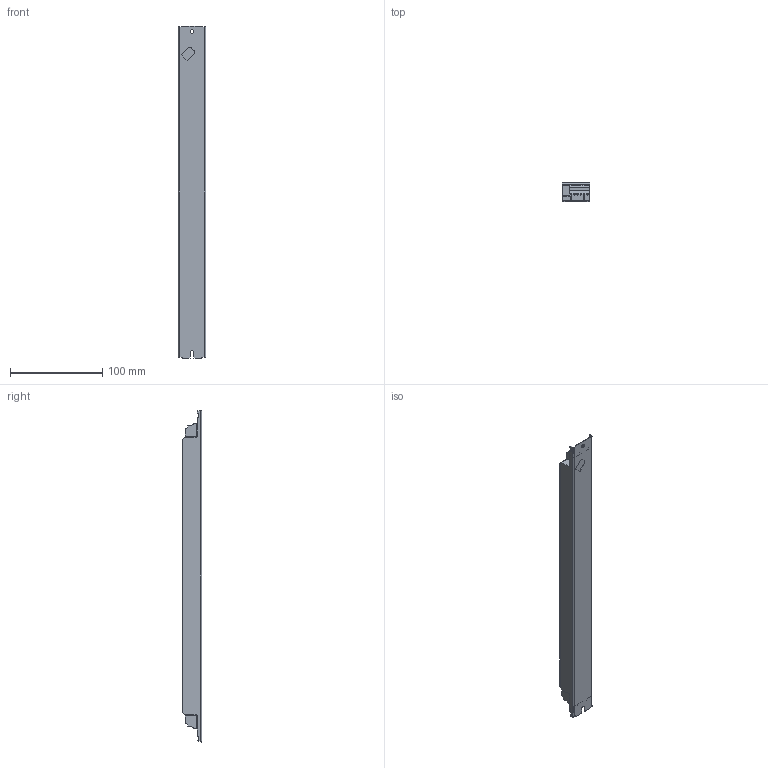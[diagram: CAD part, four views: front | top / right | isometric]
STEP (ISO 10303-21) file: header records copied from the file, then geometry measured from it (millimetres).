
FILE_DESCRIPTION((''),'2;1');
FILE_NAME('15011451Z_360X30_EM-POWERLED','2017-06-27T',('Emanuel.Wild'),(''),'PRO/ENGINEER BY PARAMETRIC TECHNOLOGY CORPORATION, 2015200','PRO/ENGINEER BY PARAMETRIC TECHNOLOGY CORPORATION, 2015200','');
FILE_SCHEMA(('AUTOMOTIVE_DESIGN { 1 0 10303 214 1 1 1 1 }'));
Length unit declared in the file: millimetre
Products named in the file (1): 15011451Z_360X30_EM-POWERLED
Bounding box: 30 x 21 x 360 mm (x, y, z)
Volume: 201450.3 mm3; surface area: 37263 mm2
Topology: 1 solids, 1 shells, 364 faces, 1077 edges, 716 vertices
Faces by surface type: plane 262, cylinder 102
Entity records: 16215 total; most frequent: CARTESIAN_POINT 2288, ORIENTED_EDGE 2154, DIRECTION 1969, PRESENTATION_STYLE_ASSIGNMENT 1114, STYLED_ITEM 1078, CURVE_STYLE 1077, EDGE_CURVE 1077, VECTOR 841
